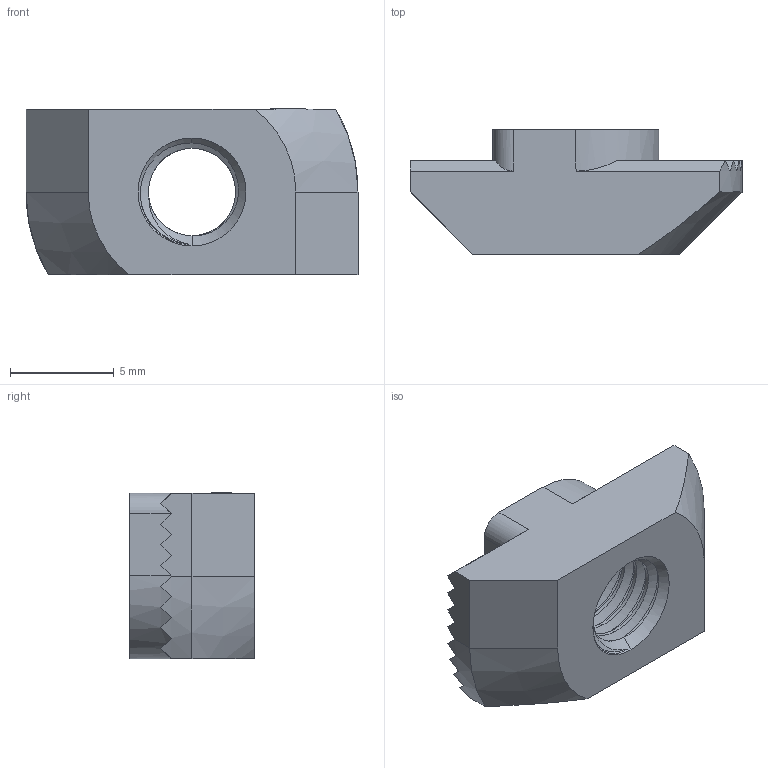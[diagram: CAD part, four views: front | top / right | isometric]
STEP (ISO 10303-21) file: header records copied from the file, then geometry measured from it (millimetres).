
FILE_DESCRIPTION (( 'STEP AP203' ), '1' );
FILE_NAME ('2005.008.002.STEP', '2023-05-24T06:48:18', ( '' ), ( '' ), 'SwSTEP 2.0', 'SolidWorks 2022', '' );
FILE_SCHEMA (( 'CONFIG_CONTROL_DESIGN' ));
Length unit declared in the file: millimetre
Products named in the file (1): 2005.008.002
Bounding box: 16 x 6 x 8 mm (x, y, z)
Volume: 454.3 mm3; surface area: 568 mm2
Topology: 1 solids, 1 shells, 70 faces, 196 edges, 128 vertices
Faces by surface type: plane 42, cylinder 19, cone 6, bspline 3
Entity records: 4410 total; most frequent: CARTESIAN_POINT 2742, ORIENTED_EDGE 392, DIRECTION 270, EDGE_CURVE 196, VERTEX_POINT 128, VECTOR 106, LINE 106, AXIS2_PLACEMENT_3D 82
